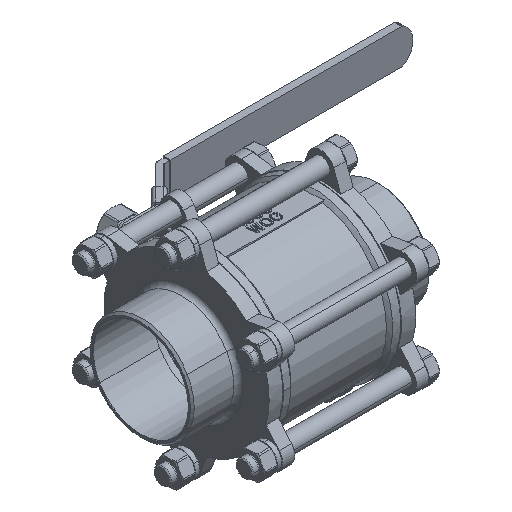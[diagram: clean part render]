
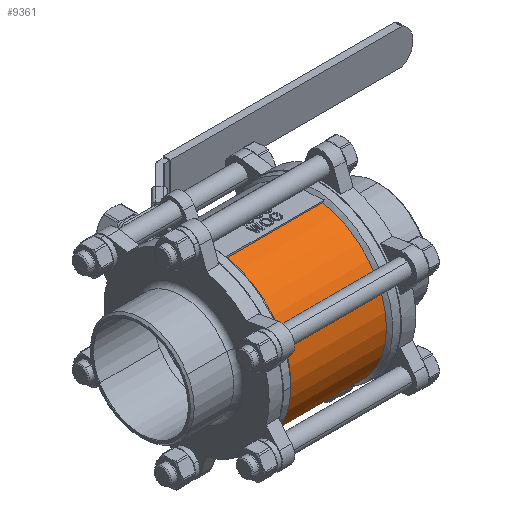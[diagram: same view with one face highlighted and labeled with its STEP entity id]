
A CAD part, isometric view. The second image highlights one B-rep face of the part: STEP entity #9361.
In plain terms, the highlighted cylindrical face has radius 82.75 mm (diameter 165.5 mm), a partial arc.
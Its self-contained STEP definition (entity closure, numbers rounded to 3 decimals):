
#408=CARTESIAN_POINT('',(50.25,-16.,-81.188));
#812=DIRECTION('',(-1.,0.,0.));
#813=VECTOR('',#812,100.5);
#814=CARTESIAN_POINT('',(50.25,-16.,-81.188));
#815=LINE('',#814,#813);
#816=DIRECTION('',(-1.,0.,0.));
#817=VECTOR('',#816,100.5);
#818=CARTESIAN_POINT('',(50.25,-16.,81.188));
#819=LINE('',#818,#817);
#820=CARTESIAN_POINT('',(50.25,0.,0.));
#821=DIRECTION('',(1.,0.,0.));
#822=DIRECTION('',(0.,-0.193,0.981));
#823=AXIS2_PLACEMENT_3D('',#820,#821,#822);
#1554=CARTESIAN_POINT('',(-50.25,0.,0.));
#1555=DIRECTION('',(-1.,0.,0.));
#1556=DIRECTION('',(0.,-0.193,-0.981));
#1557=AXIS2_PLACEMENT_3D('',#1554,#1555,#1556);
#1579=CARTESIAN_POINT('',(-50.25,0.,0.));
#1580=DIRECTION('',(1.,0.,0.));
#1581=DIRECTION('',(0.,-0.193,0.981));
#1582=AXIS2_PLACEMENT_3D('',#1579,#1580,#1581);
#6361=CARTESIAN_POINT('',(-50.25,-82.75,0.));
#6363=VERTEX_POINT('',#6361);
#6391=CARTESIAN_POINT('',(50.25,-16.,81.188));
#6392=CARTESIAN_POINT('',(-50.25,-16.,81.188));
#6393=VERTEX_POINT('',#6391);
#6394=VERTEX_POINT('',#6392);
#7373=VERTEX_POINT('',#408);
#7375=CARTESIAN_POINT('',(-50.25,-16.,-81.188));
#7376=VERTEX_POINT('',#7375);
#9345=CARTESIAN_POINT('',(68.2,0.,0.));
#9346=DIRECTION('',(-1.,0.,0.));
#9347=DIRECTION('',(0.,1.,0.));
#9348=AXIS2_PLACEMENT_3D('',#9345,#9346,#9347);
#9349=CYLINDRICAL_SURFACE('',#9348,82.75);
#9351=ORIENTED_EDGE('',*,*,#9350,.T.);
#9353=ORIENTED_EDGE('',*,*,#9352,.T.);
#9355=ORIENTED_EDGE('',*,*,#9354,.F.);
#9357=ORIENTED_EDGE('',*,*,#9356,.F.);
#9358=ORIENTED_EDGE('',*,*,#8799,.T.);
#9359=EDGE_LOOP('',(#9351,#9353,#9355,#9357,#9358));
#9360=FACE_OUTER_BOUND('',#9359,.F.);
#9361=ADVANCED_FACE('',(#9360),#9349,.T.);
#824=CIRCLE('',#823,82.75);
#1558=CIRCLE('',#1557,82.75);
#1583=CIRCLE('',#1582,82.75);
#8799=EDGE_CURVE('',#6393,#7373,#824,.T.);
#9350=EDGE_CURVE('',#7373,#7376,#815,.T.);
#9352=EDGE_CURVE('',#7376,#6363,#1558,.T.);
#9354=EDGE_CURVE('',#6394,#6363,#1583,.T.);
#9356=EDGE_CURVE('',#6393,#6394,#819,.T.);
